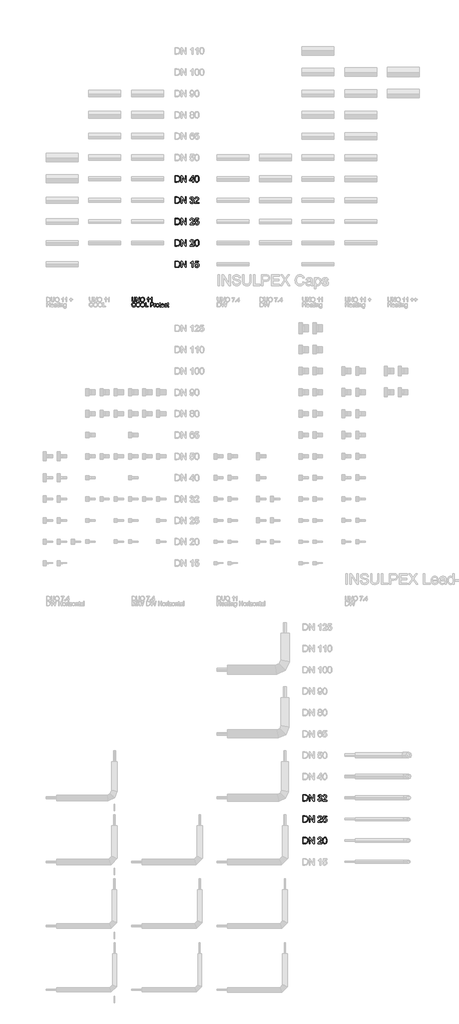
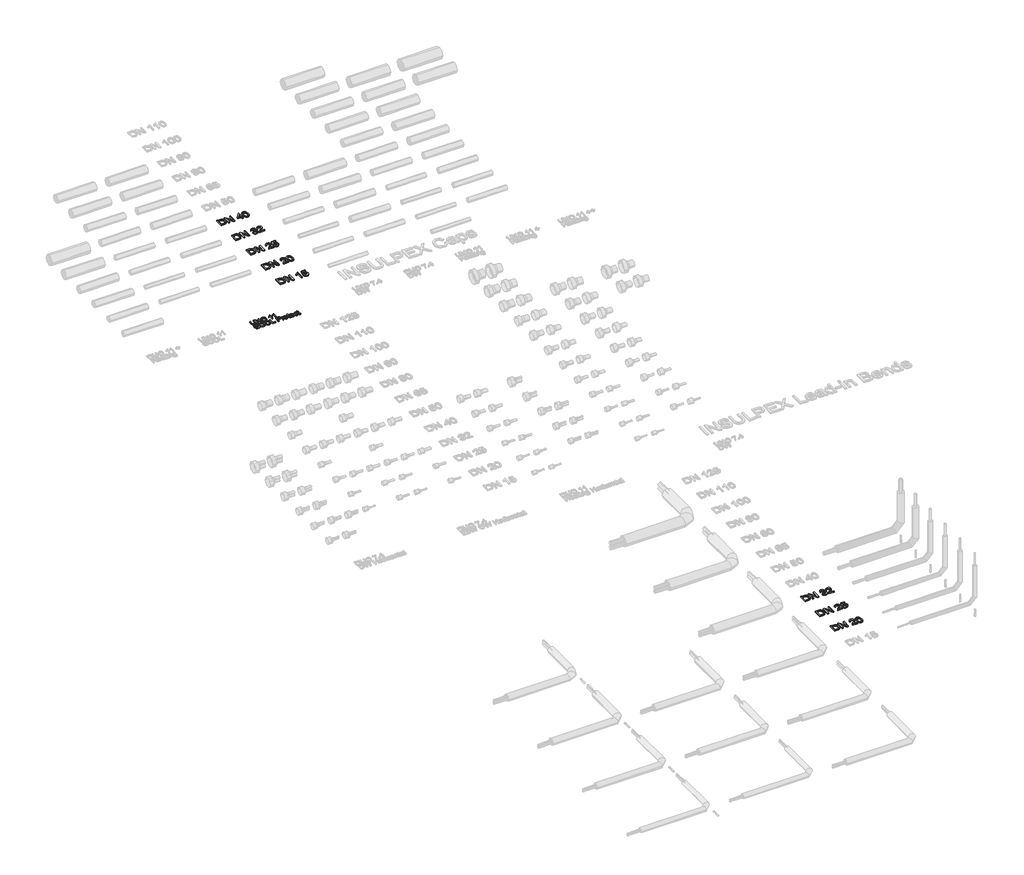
# One storey, part 18 of 44: 9 proxies.
"""IFC4 building model written with IfcOpenShell, lengths in millimetres."""

from ifc_helpers import new_model, si_unit, origin, origin_with_axes, place, context, project, spatial, polyline, outline, extrude, element, save

model = new_model("IFC4")

# Units and contexts
model_context = context("Model", 3, world=origin())
ifc_project = project(units=[si_unit("LENGTHUNIT", "METRE", prefix="MILLI")], contexts=[model_context])

# Site, building, storey
site = spatial("IfcSite", under=ifc_project)
building = spatial("IfcBuilding", under=site)
storey = spatial("IfcBuildingStorey", under=building, Name="REHAU Starting view", Elevation=0.0)

# Proxies
placement = place(None, origin())
element("IfcBuildingElementProxy", 1, Name="100", ObjectType="100", at=placement, inside=storey, context=model_context, shape_type="SweptSolid", body=[
    extrude(outline(polyline([(14076.9118625, 13222.431128), (14089.4689012, 13222.431128), (14089.4689012, 13164.477451), (14086.0598614, 13140.4547567), (14073.7726028, 13125.9847316), (14063.5086951, 13121.8000739), (14050.4734097, 13120.405188), (14027.529836, 13125.2612303), (14019.8901532, 13131.2055902), (14014.8011189, 13139.3265853), (14010.9874089, 13164.477451), (14010.9874089, 13222.431128), (14023.5444477, 13222.431128), (14023.5444477, 13164.9189094), (14026.0215198, 13145.7767829), (14034.5318566, 13136.2976902), (14049.2961874, 13132.9622268), (14062.067824, 13134.6115644), (14070.5597667, 13139.5595772), (14075.3238385, 13149.1980855), (14076.9118625, 13164.9189094), (14076.9118625, 13222.431128)])), origin_with_axes(), (0.0, 0.0, 1.0), 20.0),
    extrude(outline(polyline([(14111.4437191, 13121.9748178), (14111.4437191, 13222.431128), (14124.8836746, 13222.431128), (14177.3681726, 13142.8459897), (14177.3681726, 13222.431128), (14189.9252114, 13222.431128), (14189.9252114, 13121.9748178), (14176.4852558, 13121.9748178), (14124.0007578, 13201.5844816), (14124.0007578, 13121.9748178), (14111.4437191, 13121.9748178)])), origin_with_axes(), (0.0, 0.0, 1.0), 20.0),
    extrude(outline(polyline([(14207.1911397, 13170.8785977), (14210.5388658, 13193.0925389), (14220.5820443, 13209.8986147), (14235.9165921, 13220.4752221), (14255.1384264, 13224.0007578), (14268.3147332, 13222.3452889), (14280.1298766, 13217.3788819), (14289.9400631, 13209.4510249), (14297.1014993, 13198.9112058), (14301.479295, 13186.2683279), (14302.9385603, 13172.0312947), (14301.402653, 13157.6041891), (14296.794931, 13144.7835015), (14289.369846, 13134.2252883), (14279.3818499, 13126.5856055), (14267.667874, 13121.9502924), (14255.06485, 13120.405188), (14241.6862081, 13122.1127736), (14229.8036197, 13127.2355304), (14220.0179586, 13135.3105402), (14212.9300988, 13145.8748848), (14207.1911397, 13170.8785977)]), holes=[polyline([(14219.7481785, 13170.7559704), (14222.2589731, 13155.0412778), (14229.7913569, 13143.0667189), (14241.1129253, 13135.4883498), (14254.9912736, 13132.9622268), (14269.071957, 13135.5128753), (14280.4119195, 13143.1648208), (14287.889121, 13155.5072617), (14290.3815215, 13172.1293965), (14286.1140904, 13192.8534156), (14273.6428907, 13206.575414), (14255.2120028, 13211.4437191), (14241.7046022, 13209.0984714), (14230.2205526, 13202.0627282), (14222.366272, 13189.5455433), (14219.7481785, 13170.7559704)])]), origin_with_axes(), (0.0, 0.0, 1.0), 20.0),
    extrude(outline(polyline([(14401.8252406, 13121.9748178), (14389.2682018, 13121.9748178), (14389.2682018, 13200.2601064), (14377.3733507, 13191.7865578), (14364.1541243, 13185.4467247), (14364.1541243, 13197.3170505), (14382.5604868, 13209.0647488), (14393.7318367, 13222.431128), (14401.8252406, 13222.431128), (14401.8252406, 13121.9748178)])), origin_with_axes(), (0.0, 0.0, 1.0), 20.0),
    extrude(outline(polyline([(14478.7371031, 13121.9748178), (14466.1800643, 13121.9748178), (14466.1800643, 13200.2601064), (14454.2852131, 13191.7865578), (14441.0659868, 13185.4467247), (14441.0659868, 13197.3170505), (14459.4723492, 13209.0647488), (14470.6436992, 13222.431128), (14478.7371031, 13222.431128), (14478.7371031, 13121.9748178)])), origin_with_axes(), (0.0, 0.0, 1.0), 20.0),
    extrude(outline(polyline([(14081.620752, 13035.709079), (14094.1777908, 13032.4717174), (14088.3836493, 13017.8392111), (14079.2908327, 13007.1491734), (14067.3469306, 13000.610071), (14052.9995328, 12998.4303702), (14038.4344714, 13000.0797078), (14026.8676484, 13005.0277206), (14018.0016923, 13013.1027304), (14011.5392319, 13024.1330589), (14006.2785194, 13050.9884445), (14007.7653758, 13065.6362793), (14012.225945, 13078.2852886), (14019.427235, 13088.5338678), (14029.136254, 13095.9804125), (14040.6509605, 13100.5145581), (14053.2693129, 13102.02594), (14067.0372966, 13100.0700341), (14078.4201786, 13094.2023162), (14087.0623398, 13084.7845372), (14092.6081609, 13072.1784475), (14080.0511222, 13069.1863406), (14069.7504263, 13084.6251216), (14052.7788036, 13089.4689012), (14033.133905, 13084.0978241), (14022.0361315, 13069.6768499), (14018.8355582, 13051.01297), (14022.6247427, 13029.3815087), (14034.421492, 13015.5614084), (14051.748734, 13010.9874089), (14062.2303052, 13012.544776), (14070.9644369, 13017.2168774), (14077.5587216, 13024.954662), (14081.620752, 13035.709079)])), origin_with_axes(), (0.0, 0.0, 1.0), 20.0),
    extrude(outline(polyline([(14106.7348295, 13048.9037799), (14110.0825557, 13071.117721), (14120.1257342, 13087.9237968), (14135.460282, 13098.5004042), (14154.6821162, 13102.02594), (14167.858423, 13100.370471), (14179.6735664, 13095.4040641), (14189.483753, 13087.4762071), (14196.6451892, 13076.9363879), (14201.0229849, 13064.29351), (14202.4822501, 13050.0564768), (14200.9463428, 13035.6293712), (14196.3386208, 13022.8086837), (14188.9135359, 13012.2504704), (14178.9255397, 13004.6107877), (14167.2115639, 12999.9754745), (14154.6085398, 12998.4303702), (14141.2298979, 13000.1379557), (14129.3473095, 13005.2607125), (14119.5616484, 13013.3357223), (14112.4737887, 13023.900067), (14106.7348295, 13048.9037799)]), holes=[polyline([(14119.2918683, 13048.7811526), (14121.8026629, 13033.06646), (14129.3350468, 13021.0919011), (14140.6566152, 13013.513532), (14154.5349634, 13010.9874089), (14168.6156468, 13013.5380574), (14179.9556093, 13021.1900029), (14187.4328109, 13033.5324439), (14189.9252114, 13050.1545787), (14185.6577802, 13070.8785977), (14173.1865806, 13084.6005962), (14154.7556926, 13089.4689012), (14141.248292, 13087.1236535), (14129.7642424, 13080.0879103), (14121.9099618, 13067.5707255), (14119.2918683, 13048.7811526)])]), origin_with_axes(), (0.0, 0.0, 1.0), 20.0),
    extrude(outline(polyline([(14215.0392889, 13048.9037799), (14218.3870151, 13071.117721), (14228.4301935, 13087.9237968), (14243.7647414, 13098.5004042), (14262.9865756, 13102.02594), (14276.1628824, 13100.370471), (14287.9780258, 13095.4040641), (14297.7882124, 13087.4762071), (14304.9496485, 13076.9363879), (14309.3274443, 13064.29351), (14310.7867095, 13050.0564768), (14309.2508022, 13035.6293712), (14304.6430802, 13022.8086837), (14297.2179953, 13012.2504704), (14287.2299991, 13004.6107877), (14275.5160232, 12999.9754745), (14262.9129992, 12998.4303702), (14249.5343573, 13000.1379557), (14237.6517689, 13005.2607125), (14227.8661078, 13013.3357223), (14220.778248, 13023.900067), (14215.0392889, 13048.9037799)]), holes=[polyline([(14227.5963277, 13048.7811526), (14230.1071223, 13033.06646), (14237.6395062, 13021.0919011), (14248.9610746, 13013.513532), (14262.8394228, 13010.9874089), (14276.9201062, 13013.5380574), (14288.2600687, 13021.1900029), (14295.7372702, 13033.5324439), (14298.2296708, 13050.1545787), (14293.9622396, 13070.8785977), (14281.49104, 13084.6005962), (14263.060152, 13089.4689012), (14249.5527514, 13087.1236535), (14238.0687018, 13080.0879103), (14230.2144212, 13067.5707255), (14227.5963277, 13048.7811526)])]), origin_with_axes(), (0.0, 0.0, 1.0), 20.0),
    extrude(outline(polyline([(14328.0526378, 13000.0), (14328.0526378, 13100.4563101), (14340.6096766, 13100.4563101), (14340.6096766, 13012.5570388), (14390.8378317, 13012.5570388), (14390.8378317, 13000.0), (14328.0526378, 13000.0)])), origin_with_axes(), (0.0, 0.0, 1.0), 20.0),
    extrude(outline(polyline([(14444.2052464, 13000.0), (14444.2052464, 13100.4563101), (14481.4349044, 13100.4563101), (14496.4444898, 13099.499817), (14508.6459093, 13094.8031902), (14516.5553722, 13085.0911055), (14519.5474791, 13071.3936325), (14517.5271938, 13059.5539637), (14511.4663379, 13049.6885948), (14500.1325068, 13043.0299307), (14482.2932957, 13040.810376), (14456.7622852, 13040.810376), (14456.7622852, 13000.0), (14444.2052464, 13000.0)]), holes=[polyline([(14456.7622852, 13053.3674148), (14483.0290597, 13053.3674148), (14501.5212613, 13057.9782024), (14505.6231455, 13063.5270892), (14506.9904403, 13070.9521741), (14503.7653415, 13081.3509719), (14495.2917928, 13087.0408801), (14482.7347541, 13087.8992714), (14456.7622852, 13087.8992714), (14456.7622852, 13053.3674148)])]), origin_with_axes(), (0.0, 0.0, 1.0), 20.0),
    extrude(outline(polyline([(14535.2437775, 13000.0), (14535.2437775, 13073.7726028), (14546.2311864, 13073.7726028), (14546.2311864, 13062.8587702), (14554.0302847, 13072.9142114), (14561.878434, 13075.3422326), (14574.4845237, 13071.4672089), (14570.2906689, 13060.2100199), (14561.461501, 13062.7851938), (14554.3613785, 13060.3081217), (14549.83643, 13053.4409912), (14547.8008163, 13038.7747623), (14547.8008163, 13000.0), (14535.2437775, 13000.0)])), origin_with_axes(), (0.0, 0.0, 1.0), 20.0),
    extrude(outline(polyline([(14579.1934132, 13036.8863014), (14581.9096086, 13054.6733958), (14590.0581948, 13067.1752523), (14600.1258987, 13073.3004875), (14612.1801654, 13075.3422326), (14625.3718007, 13072.8559635), (14635.9085541, 13065.397156), (14642.8155386, 13053.5544214), (14645.1178667, 13037.916371), (14641.0466393, 13015.5736711), (14629.1885764, 13002.9307932), (14612.1801654, 12998.4303702), (14598.8291147, 13000.9074423), (14588.304624, 13008.3386586), (14581.4712159, 13020.4297135), (14579.1934132, 13036.8863014)]), holes=[polyline([(14591.750452, 13036.9108268), (14593.2035859, 13025.5463389), (14597.5629875, 13017.4498693), (14604.1235497, 13012.603024), (14612.1801654, 13010.9874089), (14620.1999929, 13012.6122211), (14626.7482924, 13017.4866575), (14631.1076941, 13025.690426), (14632.560828, 13037.3032343), (14631.098497, 13048.3366285), (14626.7115043, 13056.3227335), (14620.1540077, 13061.1695787), (14612.1801654, 13062.7851938), (14604.1235497, 13061.1757101), (14597.5629875, 13056.3472589), (14593.2035859, 13048.2691835), (14591.750452, 13036.9108268)])]), origin_with_axes(), (0.0, 0.0, 1.0), 20.0),
    extrude(outline(polyline([(14685.9282427, 13010.4723741), (14687.4978726, 12999.632118), (14678.104619, 12998.4303702), (14667.5831939, 13000.5150348), (14662.3347441, 13005.9842138), (14660.8141652, 13020.2335097), (14660.8141652, 13061.215564), (14651.3963861, 13061.215564), (14651.3963861, 13073.7726028), (14660.8141652, 13073.7726028), (14660.8141652, 13091.7007187), (14673.371204, 13099.082884), (14673.371204, 13073.7726028), (14685.9282427, 13073.7726028), (14685.9282427, 13061.215564), (14673.371204, 13061.215564), (14673.371204, 13020.6013917), (14674.0333916, 13014.1266686), (14676.1793699, 13011.8335375), (14680.4590637, 13010.9874089), (14685.9282427, 13010.4723741)])), origin_with_axes(), (0.0, 0.0, 1.0), 20.0),
    extrude(outline(polyline([(14750.1359136, 13021.9748178), (14762.4476977, 13020.405188), (14758.011654, 13011.1284304), (14750.9329913, 13004.1938547), (14741.3711251, 12999.8712413), (14729.485471, 12998.4303702), (14714.7517971, 13000.9166393), (14703.4149002, 13008.3754468), (14696.186019, 13020.3224146), (14693.776392, 13036.2731647), (14696.2105445, 13052.7604095), (14703.5130021, 13065.0905877), (14714.6966148, 13072.7793214), (14728.7742324, 13075.3422326), (14742.4134574, 13072.7854527), (14753.3119615, 13065.1151131), (14760.4580693, 13052.8094604), (14762.8401052, 13036.3467411), (14762.7665288, 13032.9622268), (14706.3334307, 13032.9622268), (14708.5070002, 13023.5628418), (14713.5561806, 13016.6527916), (14720.8433098, 13012.4037546), (14729.7307256, 13010.9874089), (14742.0425097, 13013.6116338), (14750.1359136, 13021.9748178)]), holes=[polyline([(14706.3334307, 13045.5192655), (14750.2830664, 13045.5192655), (14745.2553458, 13056.8990819), (14737.9344941, 13061.3136659), (14728.7251815, 13062.7851938), (14713.261875, 13058.088567), (14708.3966356, 13052.5979283), (14706.3334307, 13045.5192655)])]), origin_with_axes(), (0.0, 0.0, 1.0), 20.0),
    extrude(outline(polyline([(14822.4860393, 13026.6837074), (14835.0430781, 13025.1140775), (14831.5420678, 13013.9457933), (14824.9631115, 13005.5059672), (14815.9254771, 13000.1992694), (14805.0484328, 12998.4303702), (14791.6912507, 13000.8982452), (14781.2464677, 13008.3018704), (14774.5050301, 13020.3162832), (14772.2578843, 13036.6165213), (14776.0961198, 13057.4754304), (14787.7947672, 13070.8785977), (14804.8767545, 13075.3422326), (14815.4870844, 13073.809391), (14823.9698301, 13069.210866), (14830.0552114, 13061.7919125), (14833.4734483, 13051.7977849), (14820.9164095, 13050.2281551), (14815.0916112, 13059.6336714), (14804.9748564, 13062.7851938), (14796.8599927, 13061.2339581), (14790.4189921, 13056.5802509), (14786.2159403, 13048.5726861), (14784.814923, 13036.9598778), (14786.1852835, 13025.1907196), (14790.2963648, 13017.1555637), (14796.6208694, 13012.5294476), (14804.6314999, 13010.9874089), (14816.4650374, 13014.8379071), (14822.4860393, 13026.6837074)])), origin_with_axes(), (0.0, 0.0, 1.0), 20.0),
    extrude(outline(polyline([(14872.7141944, 13010.4723741), (14874.2838243, 12999.632118), (14864.8905707, 12998.4303702), (14854.3691456, 13000.5150348), (14849.1206958, 13005.9842138), (14847.6001169, 13020.2335097), (14847.6001169, 13061.215564), (14838.1823378, 13061.215564), (14838.1823378, 13073.7726028), (14847.6001169, 13073.7726028), (14847.6001169, 13091.7007187), (14860.1571557, 13099.082884), (14860.1571557, 13073.7726028), (14872.7141944, 13073.7726028), (14872.7141944, 13061.215564), (14860.1571557, 13061.215564), (14860.1571557, 13020.6013917), (14860.8193432, 13014.1266686), (14862.9653216, 13011.8335375), (14867.2450154, 13010.9874089), (14872.7141944, 13010.4723741)])), origin_with_axes(), (0.0, 0.0, 1.0), 20.0),
])
element("IfcBuildingElementProxy", 2, Name="150", ObjectType="150", at=placement, inside=storey, context=model_context, shape_type="SweptSolid", body=[
    extrude(outline(polyline([(15016.4811134, 13925.0), (15016.4811134, 14075.6844652), (15068.4628393, 14075.6844652), (15095.3550131, 14073.5139615), (15117.5015093, 14062.735019), (15127.9217668, 14051.2571007), (15135.343786, 14036.9832793), (15139.7859611, 14020.1894663), (15141.2666861, 14001.151573), (15137.2567724, 13970.7461261), (15126.9560765, 13948.8019651), (15113.1972899, 13935.135149), (15095.1894663, 13927.575174), (15070.9644369, 13925.0), (15016.4811134, 13925.0)]), holes=[polyline([(15035.3166715, 13943.8355582), (15068.6467803, 13943.8355582), (15092.8902038, 13946.5578849), (15106.8697196, 13954.2466186), (15118.3292437, 13972.9534181), (15122.431128, 14001.4458786), (15120.4215726, 14021.9736939), (15114.3929064, 14037.1304321), (15105.4855636, 14047.5414926), (15094.8399784, 14053.8322747), (15068.1317455, 14056.8489071), (15035.3166715, 14056.8489071), (15035.3166715, 13943.8355582)])]), origin_with_axes(), (0.0, 0.0, 1.0), 20.0),
    extrude(outline(polyline([(15167.1655786, 13925.0), (15167.1655786, 14075.6844652), (15187.3255119, 14075.6844652), (15266.0522589, 13956.3067578), (15266.0522589, 14075.6844652), (15284.8878171, 14075.6844652), (15284.8878171, 13925.0), (15264.7278837, 13925.0), (15186.0011368, 14044.4144956), (15186.0011368, 13925.0), (15167.1655786, 13925.0)])), origin_with_axes(), (0.0, 0.0, 1.0), 20.0),
    extrude(outline(polyline([(15440.2811718, 13925.0), (15421.4456137, 13925.0), (15421.4456137, 14042.4279329), (15403.6033369, 14029.7176099), (15383.7744974, 14020.2078604), (15383.7744974, 14038.0133489), (15411.3840411, 14055.6348965), (15428.141066, 14075.6844652), (15440.2811718, 14075.6844652), (15440.2811718, 13925.0)])), origin_with_axes(), (0.0, 0.0, 1.0), 20.0),
    extrude(outline(polyline([(15485.0156224, 13965.0255611), (15503.8511806, 13967.3800058), (15507.3092713, 13956.072233), (15513.3425361, 13947.9742306), (15521.9233836, 13943.1043927), (15533.0242228, 13941.4811134), (15546.525492, 13943.7389891), (15556.6422469, 13950.5126164), (15562.9606202, 13961.0202459), (15565.0667446, 13974.4801284), (15563.0939774, 13987.1536631), (15557.1756758, 13996.8473537), (15547.2658545, 14003.00018), (15533.3185284, 14005.0511222), (15516.7822327, 14001.7769724), (15506.2056254, 13993.2788983), (15487.3700672, 13995.6333431), (15503.8511806, 14073.3300205), (15576.8389684, 14073.3300205), (15576.8389684, 14054.4944623), (15519.0814952, 14054.4944623), (15511.0248795, 14012.9973732), (15524.4801635, 14021.1643535), (15538.5792409, 14023.8866803), (15556.1777959, 14020.511363), (15570.7873096, 14010.3854111), (15580.6235545, 13994.9527614), (15583.9023027, 13975.6573507), (15580.9500497, 13956.8217926), (15572.0932907, 13940.7085612), (15555.1339307, 13927.1613067), (15532.9506464, 13922.6455552), (15514.4507806, 13925.5472245), (15499.7125081, 13934.2522322), (15489.6095489, 13947.7489029), (15485.0156224, 13965.0255611)])), origin_with_axes(), (0.0, 0.0, 1.0), 20.0),
])
element("IfcBuildingElementProxy", 3, Name="150", ObjectType="150", at=placement, inside=storey, context=model_context, shape_type="SweptSolid", body=[
    extrude(outline(polyline([(15016.4811134, 14425.0), (15016.4811134, 14575.6844652), (15068.4628393, 14575.6844652), (15095.3550131, 14573.5139615), (15117.5015093, 14562.735019), (15127.9217668, 14551.2571007), (15135.343786, 14536.9832793), (15139.7859611, 14520.1894663), (15141.2666861, 14501.151573), (15137.2567724, 14470.7461261), (15126.9560765, 14448.8019651), (15113.1972899, 14435.135149), (15095.1894663, 14427.575174), (15070.9644369, 14425.0), (15016.4811134, 14425.0)]), holes=[polyline([(15035.3166715, 14443.8355582), (15068.6467803, 14443.8355582), (15092.8902038, 14446.5578849), (15106.8697196, 14454.2466186), (15118.3292437, 14472.9534181), (15122.431128, 14501.4458786), (15120.4215726, 14521.9736939), (15114.3929064, 14537.1304321), (15105.4855636, 14547.5414926), (15094.8399784, 14553.8322747), (15068.1317455, 14556.8489071), (15035.3166715, 14556.8489071), (15035.3166715, 14443.8355582)])]), origin_with_axes(), (0.0, 0.0, 1.0), 20.0),
    extrude(outline(polyline([(15167.1655786, 14425.0), (15167.1655786, 14575.6844652), (15187.3255119, 14575.6844652), (15266.0522589, 14456.3067578), (15266.0522589, 14575.6844652), (15284.8878171, 14575.6844652), (15284.8878171, 14425.0), (15264.7278837, 14425.0), (15186.0011368, 14544.4144956), (15186.0011368, 14425.0), (15167.1655786, 14425.0)])), origin_with_axes(), (0.0, 0.0, 1.0), 20.0),
    extrude(outline(polyline([(15466.1800643, 14443.8355582), (15466.1800643, 14425.0), (15367.293384, 14425.0), (15369.316735, 14437.9862344), (15380.757865, 14457.9806209), (15404.3391009, 14479.8144173), (15436.8598693, 14511.1947515), (15442.9575133, 14522.0104821), (15444.9900614, 14532.5319072), (15443.0724765, 14541.9634818), (15437.3197218, 14549.8039669), (15428.4767583, 14555.087672), (15417.2885471, 14556.8489071), (15405.5393159, 14555.1290587), (15396.4112439, 14549.9695138), (15390.5205335, 14541.7749423), (15388.4833869, 14530.9500146), (15369.6478288, 14533.3044594), (15374.214164, 14551.5238152), (15384.0871971, 14564.8319464), (15398.7518931, 14572.9713355), (15417.6932173, 14575.6844652), (15436.7724973, 14572.6678329), (15451.4096022, 14563.6179358), (15460.7216152, 14550.0982725), (15463.8256195, 14533.6723414), (15460.4778934, 14515.8116705), (15449.349463, 14497.3439944), (15422.3653187, 14471.5370724), (15400.6970691, 14453.4188841), (15392.1989951, 14443.8355582), (15466.1800643, 14443.8355582)])), origin_with_axes(), (0.0, 0.0, 1.0), 20.0),
    extrude(outline(polyline([(15485.0156224, 14499.128222), (15486.3997784, 14523.2474853), (15490.5522465, 14542.4831152), (15497.4316398, 14557.1294171), (15506.9965717, 14567.4806967), (15519.31602, 14573.6335231), (15534.4589626, 14575.6844652), (15556.4583059, 14570.8284229), (15571.6518323, 14556.830513), (15580.4810002, 14534.5368641), (15583.9023027, 14499.128222), (15582.5319423, 14475.1469145), (15578.420861, 14455.9572699), (15571.5828544, 14441.2971724), (15562.0317181, 14430.904506), (15549.6846787, 14424.7102929), (15534.4589626, 14422.6455552), (15514.8876404, 14426.2324047), (15500.0252078, 14436.992953), (15488.7680188, 14462.4779783), (15485.0156224, 14499.128222)]), holes=[polyline([(15503.8511806, 14499.1650102), (15506.0584726, 14469.536714), (15512.6803485, 14452.3888145), (15522.5395859, 14444.2080387), (15534.4589626, 14441.4811134), (15546.3783392, 14444.2172357), (15556.2375767, 14452.4256027), (15562.8594526, 14469.5826993), (15565.0667446, 14499.1650102), (15562.933029, 14528.1265203), (15556.5318823, 14545.407777), (15546.6910389, 14553.9886246), (15534.2382334, 14556.8489071), (15522.4476155, 14554.3289154), (15512.9746541, 14546.7689404), (15506.132049, 14528.4116288), (15503.8511806, 14499.1650102)])]), origin_with_axes(), (0.0, 0.0, 1.0), 20.0),
])
element("IfcBuildingElementProxy", 4, Name="150", ObjectType="150", at=placement, inside=storey, context=model_context, shape_type="SweptSolid", body=[
    extrude(outline(polyline([(15016.4811134, 14925.0), (15016.4811134, 15075.6844652), (15068.4628393, 15075.6844652), (15095.3550131, 15073.5139615), (15117.5015093, 15062.735019), (15127.9217668, 15051.2571007), (15135.343786, 15036.9832793), (15139.7859611, 15020.1894663), (15141.2666861, 15001.151573), (15137.2567724, 14970.7461261), (15126.9560765, 14948.8019651), (15113.1972899, 14935.135149), (15095.1894663, 14927.575174), (15070.9644369, 14925.0), (15016.4811134, 14925.0)]), holes=[polyline([(15035.3166715, 14943.8355582), (15068.6467803, 14943.8355582), (15092.8902038, 14946.5578849), (15106.8697196, 14954.2466186), (15118.3292437, 14972.9534181), (15122.431128, 15001.4458786), (15120.4215726, 15021.9736939), (15114.3929064, 15037.1304321), (15105.4855636, 15047.5414926), (15094.8399784, 15053.8322747), (15068.1317455, 15056.8489071), (15035.3166715, 15056.8489071), (15035.3166715, 14943.8355582)])]), origin_with_axes(), (0.0, 0.0, 1.0), 20.0),
    extrude(outline(polyline([(15167.1655786, 14925.0), (15167.1655786, 15075.6844652), (15187.3255119, 15075.6844652), (15266.0522589, 14956.3067578), (15266.0522589, 15075.6844652), (15284.8878171, 15075.6844652), (15284.8878171, 14925.0), (15264.7278837, 14925.0), (15186.0011368, 15044.4144956), (15186.0011368, 14925.0), (15167.1655786, 14925.0)])), origin_with_axes(), (0.0, 0.0, 1.0), 20.0),
    extrude(outline(polyline([(15466.1800643, 14943.8355582), (15466.1800643, 14925.0), (15367.293384, 14925.0), (15369.316735, 14937.9862344), (15380.757865, 14957.9806209), (15404.3391009, 14979.8144173), (15436.8598693, 15011.1947515), (15442.9575133, 15022.0104821), (15444.9900614, 15032.5319072), (15443.0724765, 15041.9634818), (15437.3197218, 15049.8039669), (15428.4767583, 15055.087672), (15417.2885471, 15056.8489071), (15405.5393159, 15055.1290587), (15396.4112439, 15049.9695138), (15390.5205335, 15041.7749423), (15388.4833869, 15030.9500146), (15369.6478288, 15033.3044594), (15374.214164, 15051.5238152), (15384.0871971, 15064.8319464), (15398.7518931, 15072.9713355), (15417.6932173, 15075.6844652), (15436.7724973, 15072.6678329), (15451.4096022, 15063.6179358), (15460.7216152, 15050.0982725), (15463.8256195, 15033.6723414), (15460.4778934, 15015.8116705), (15449.349463, 14997.3439944), (15422.3653187, 14971.5370724), (15400.6970691, 14953.4188841), (15392.1989951, 14943.8355582), (15466.1800643, 14943.8355582)])), origin_with_axes(), (0.0, 0.0, 1.0), 20.0),
    extrude(outline(polyline([(15485.0156224, 14965.0255611), (15503.8511806, 14967.3800058), (15507.3092713, 14956.072233), (15513.3425361, 14947.9742306), (15521.9233836, 14943.1043927), (15533.0242228, 14941.4811134), (15546.525492, 14943.7389891), (15556.6422469, 14950.5126164), (15562.9606202, 14961.0202459), (15565.0667446, 14974.4801284), (15563.0939774, 14987.1536631), (15557.1756758, 14996.8473537), (15547.2658545, 15003.00018), (15533.3185284, 15005.0511222), (15516.7822327, 15001.7769724), (15506.2056254, 14993.2788983), (15487.3700672, 14995.6333431), (15503.8511806, 15073.3300205), (15576.8389684, 15073.3300205), (15576.8389684, 15054.4944623), (15519.0814952, 15054.4944623), (15511.0248795, 15012.9973732), (15524.4801635, 15021.1643535), (15538.5792409, 15023.8866803), (15556.1777959, 15020.511363), (15570.7873096, 15010.3854111), (15580.6235545, 14994.9527614), (15583.9023027, 14975.6573507), (15580.9500497, 14956.8217926), (15572.0932907, 14940.7085612), (15555.1339307, 14927.1613067), (15532.9506464, 14922.6455552), (15514.4507806, 14925.5472245), (15499.7125081, 14934.2522322), (15489.6095489, 14947.7489029), (15485.0156224, 14965.0255611)])), origin_with_axes(), (0.0, 0.0, 1.0), 20.0),
])
element("IfcBuildingElementProxy", 5, Name="150", ObjectType="150", at=placement, inside=storey, context=model_context, shape_type="SweptSolid", body=[
    extrude(outline(polyline([(15016.4811134, 15425.0), (15016.4811134, 15575.6844652), (15068.4628393, 15575.6844652), (15095.3550131, 15573.5139615), (15117.5015093, 15562.735019), (15127.9217668, 15551.2571007), (15135.343786, 15536.9832793), (15139.7859611, 15520.1894663), (15141.2666861, 15501.151573), (15137.2567724, 15470.7461261), (15126.9560765, 15448.8019651), (15113.1972899, 15435.135149), (15095.1894663, 15427.575174), (15070.9644369, 15425.0), (15016.4811134, 15425.0)]), holes=[polyline([(15035.3166715, 15443.8355582), (15068.6467803, 15443.8355582), (15092.8902038, 15446.5578849), (15106.8697196, 15454.2466186), (15118.3292437, 15472.9534181), (15122.431128, 15501.4458786), (15120.4215726, 15521.9736939), (15114.3929064, 15537.1304321), (15105.4855636, 15547.5414926), (15094.8399784, 15553.8322747), (15068.1317455, 15556.8489071), (15035.3166715, 15556.8489071), (15035.3166715, 15443.8355582)])]), origin_with_axes(), (0.0, 0.0, 1.0), 20.0),
    extrude(outline(polyline([(15167.1655786, 15425.0), (15167.1655786, 15575.6844652), (15187.3255119, 15575.6844652), (15266.0522589, 15456.3067578), (15266.0522589, 15575.6844652), (15284.8878171, 15575.6844652), (15284.8878171, 15425.0), (15264.7278837, 15425.0), (15186.0011368, 15544.4144956), (15186.0011368, 15425.0), (15167.1655786, 15425.0)])), origin_with_axes(), (0.0, 0.0, 1.0), 20.0),
    extrude(outline(polyline([(15369.6478288, 15465.0255611), (15388.4833869, 15467.3800058), (15392.7002343, 15455.5434026), (15398.8760533, 15447.5511663), (15407.3143465, 15442.9986266), (15418.3186167, 15441.4811134), (15431.2312747, 15443.5688437), (15441.2008768, 15449.8320347), (15447.5744324, 15459.1762374), (15449.6989509, 15470.5070028), (15447.5928265, 15481.2629526), (15441.2744532, 15489.9863544), (15431.7095213, 15495.7667003), (15419.8637211, 15497.6934822), (15406.6567575, 15495.6333431), (15408.7536848, 15514.4689012), (15411.7703172, 15514.248172), (15433.1442611, 15519.6560374), (15440.2627777, 15526.5170366), (15442.6356166, 15536.2843035), (15440.9157683, 15544.4190942), (15435.7562233, 15551.0179774), (15427.8835486, 15555.3911747), (15418.0243111, 15556.8489071), (15408.1466795, 15555.3773791), (15400.0716698, 15550.9627951), (15394.1763608, 15543.6051552), (15390.8378317, 15533.3044594), (15372.0022735, 15535.6589041), (15377.5480946, 15552.5722789), (15387.4165291, 15565.1998284), (15400.9177983, 15573.063306), (15417.3621235, 15575.6844652), (15440.0788367, 15570.5157232), (15455.9713389, 15556.3890546), (15461.4711747, 15537.3879495), (15456.2472504, 15520.0239194), (15440.7962066, 15507.5527197), (15452.5868246, 15502.7886479), (15461.324022, 15494.6768499), (15466.7318873, 15483.6587841), (15468.5345091, 15470.175909), (15464.9292655, 15451.8185974), (15454.1135348, 15436.4779182), (15437.7887713, 15426.103646), (15417.6564291, 15422.6455552), (15399.4462704, 15425.5978082), (15384.620626, 15434.4545673), (15374.310733, 15448.0018217), (15369.6478288, 15465.0255611)])), origin_with_axes(), (0.0, 0.0, 1.0), 20.0),
    extrude(outline(polyline([(15581.547858, 15443.8355582), (15581.547858, 15425.0), (15482.6611777, 15425.0), (15484.6845286, 15437.9862344), (15496.1256587, 15457.9806209), (15519.7068946, 15479.8144173), (15552.227663, 15511.1947515), (15558.325307, 15522.0104821), (15560.3578551, 15532.5319072), (15558.4402702, 15541.9634818), (15552.6875155, 15549.8039669), (15543.844552, 15555.087672), (15532.6563408, 15556.8489071), (15520.9071096, 15555.1290587), (15511.7790376, 15549.9695138), (15505.8883271, 15541.7749423), (15503.8511806, 15530.9500146), (15485.0156224, 15533.3044594), (15489.5819577, 15551.5238152), (15499.4549908, 15564.8319464), (15514.1196868, 15572.9713355), (15533.061011, 15575.6844652), (15552.140291, 15572.6678329), (15566.7773959, 15563.6179358), (15576.0894089, 15550.0982725), (15579.1934132, 15533.6723414), (15575.8456871, 15515.8116705), (15564.7172567, 15497.3439944), (15537.7331123, 15471.5370724), (15516.0648628, 15453.4188841), (15507.5667887, 15443.8355582), (15581.547858, 15443.8355582)])), origin_with_axes(), (0.0, 0.0, 1.0), 20.0),
])
element("IfcBuildingElementProxy", 6, Name="150", ObjectType="150", at=placement, inside=storey, context=model_context, shape_type="SweptSolid", body=[
    extrude(outline(polyline([(15016.4811134, 15925.0), (15016.4811134, 16075.6844652), (15068.4628393, 16075.6844652), (15095.3550131, 16073.5139615), (15117.5015093, 16062.735019), (15127.9217668, 16051.2571007), (15135.343786, 16036.9832793), (15139.7859611, 16020.1894663), (15141.2666861, 16001.151573), (15137.2567724, 15970.7461261), (15126.9560765, 15948.8019651), (15113.1972899, 15935.135149), (15095.1894663, 15927.575174), (15070.9644369, 15925.0), (15016.4811134, 15925.0)]), holes=[polyline([(15035.3166715, 15943.8355582), (15068.6467803, 15943.8355582), (15092.8902038, 15946.5578849), (15106.8697196, 15954.2466186), (15118.3292437, 15972.9534181), (15122.431128, 16001.4458786), (15120.4215726, 16021.9736939), (15114.3929064, 16037.1304321), (15105.4855636, 16047.5414926), (15094.8399784, 16053.8322747), (15068.1317455, 16056.8489071), (15035.3166715, 16056.8489071), (15035.3166715, 15943.8355582)])]), origin_with_axes(), (0.0, 0.0, 1.0), 20.0),
    extrude(outline(polyline([(15167.1655786, 15925.0), (15167.1655786, 16075.6844652), (15187.3255119, 16075.6844652), (15266.0522589, 15956.3067578), (15266.0522589, 16075.6844652), (15284.8878171, 16075.6844652), (15284.8878171, 15925.0), (15264.7278837, 15925.0), (15186.0011368, 16044.4144956), (15186.0011368, 15925.0), (15167.1655786, 15925.0)])), origin_with_axes(), (0.0, 0.0, 1.0), 20.0),
    extrude(outline(polyline([(15430.8633928, 15925.0), (15430.8633928, 15960.3166715), (15362.5844944, 15960.3166715), (15362.5844944, 15979.1522297), (15435.5722823, 16073.3300205), (15449.6989509, 16073.3300205), (15449.6989509, 15979.1522297), (15468.5345091, 15979.1522297), (15468.5345091, 15960.3166715), (15449.6989509, 15960.3166715), (15449.6989509, 15925.0), (15430.8633928, 15925.0)]), holes=[polyline([(15430.8633928, 15979.1522297), (15430.8633928, 16037.3511613), (15385.7610601, 15979.1522297), (15430.8633928, 15979.1522297)])]), origin_with_axes(), (0.0, 0.0, 1.0), 20.0),
    extrude(outline(polyline([(15485.0156224, 15999.128222), (15486.3997784, 16023.2474853), (15490.5522465, 16042.4831152), (15497.4316398, 16057.1294171), (15506.9965717, 16067.4806967), (15519.31602, 16073.6335231), (15534.4589626, 16075.6844652), (15556.4583059, 16070.8284229), (15571.6518323, 16056.830513), (15580.4810002, 16034.5368641), (15583.9023027, 15999.128222), (15582.5319423, 15975.1469145), (15578.420861, 15955.9572699), (15571.5828544, 15941.2971724), (15562.0317181, 15930.904506), (15549.6846787, 15924.7102929), (15534.4589626, 15922.6455552), (15514.8876404, 15926.2324047), (15500.0252078, 15936.992953), (15488.7680188, 15962.4779783), (15485.0156224, 15999.128222)]), holes=[polyline([(15503.8511806, 15999.1650102), (15506.0584726, 15969.536714), (15512.6803485, 15952.3888145), (15522.5395859, 15944.2080387), (15534.4589626, 15941.4811134), (15546.3783392, 15944.2172357), (15556.2375767, 15952.4256027), (15562.8594526, 15969.5826993), (15565.0667446, 15999.1650102), (15562.933029, 16028.1265203), (15556.5318823, 16045.407777), (15546.6910389, 16053.9886246), (15534.2382334, 16056.8489071), (15522.4476155, 16054.3289154), (15512.9746541, 16046.7689404), (15506.132049, 16028.4116288), (15503.8511806, 15999.1650102)])]), origin_with_axes(), (0.0, 0.0, 1.0), 20.0),
])
element("IfcBuildingElementProxy", 7, Name="150", ObjectType="150", at=placement, inside=storey, context=model_context, shape_type="SweptSolid", body=[
    extrude(outline(polyline([(18016.4811134, 425.0), (18016.4811134, 575.6844652), (18068.4628393, 575.6844652), (18095.3550131, 573.5139615), (18117.5015093, 562.735019), (18127.9217668, 551.2571007), (18135.343786, 536.9832793), (18139.7859611, 520.1894663), (18141.2666861, 501.151573), (18137.2567724, 470.7461261), (18126.9560765, 448.8019651), (18113.1972899, 435.135149), (18095.1894663, 427.575174), (18070.9644369, 425.0), (18016.4811134, 425.0)]), holes=[polyline([(18035.3166715, 443.8355582), (18068.6467803, 443.8355582), (18092.8902038, 446.5578849), (18106.8697196, 454.2466186), (18118.3292437, 472.9534181), (18122.431128, 501.4458786), (18120.4215726, 521.9736939), (18114.3929064, 537.1304321), (18105.4855636, 547.5414926), (18094.8399784, 553.8322747), (18068.1317455, 556.8489071), (18035.3166715, 556.8489071), (18035.3166715, 443.8355582)])]), origin_with_axes(), (0.0, 0.0, 1.0), 20.0),
    extrude(outline(polyline([(18167.1655786, 425.0), (18167.1655786, 575.6844652), (18187.3255119, 575.6844652), (18266.0522589, 456.3067578), (18266.0522589, 575.6844652), (18284.8878171, 575.6844652), (18284.8878171, 425.0), (18264.7278837, 425.0), (18186.0011368, 544.4144956), (18186.0011368, 425.0), (18167.1655786, 425.0)])), origin_with_axes(), (0.0, 0.0, 1.0), 20.0),
    extrude(outline(polyline([(18466.1800643, 443.8355582), (18466.1800643, 425.0), (18367.293384, 425.0), (18369.316735, 437.9862344), (18380.757865, 457.9806209), (18404.3391009, 479.8144173), (18436.8598693, 511.1947515), (18442.9575133, 522.0104821), (18444.9900614, 532.5319072), (18443.0724765, 541.9634818), (18437.3197218, 549.8039669), (18428.4767583, 555.087672), (18417.2885471, 556.8489071), (18405.5393159, 555.1290587), (18396.4112439, 549.9695138), (18390.5205335, 541.7749423), (18388.4833869, 530.9500146), (18369.6478288, 533.3044594), (18374.214164, 551.5238152), (18384.0871971, 564.8319464), (18398.7518931, 572.9713355), (18417.6932173, 575.6844652), (18436.7724973, 572.6678329), (18451.4096022, 563.6179358), (18460.7216152, 550.0982725), (18463.8256195, 533.6723414), (18460.4778934, 515.8116705), (18449.349463, 497.3439944), (18422.3653187, 471.5370724), (18400.6970691, 453.4188841), (18392.1989951, 443.8355582), (18466.1800643, 443.8355582)])), origin_with_axes(), (0.0, 0.0, 1.0), 20.0),
    extrude(outline(polyline([(18485.0156224, 499.128222), (18486.3997784, 523.2474853), (18490.5522465, 542.4831152), (18497.4316398, 557.1294171), (18506.9965717, 567.4806967), (18519.31602, 573.6335231), (18534.4589626, 575.6844652), (18556.4583059, 570.8284229), (18571.6518323, 556.830513), (18580.4810002, 534.5368641), (18583.9023027, 499.128222), (18582.5319423, 475.1469145), (18578.420861, 455.9572699), (18571.5828544, 441.2971724), (18562.0317181, 430.904506), (18549.6846787, 424.7102929), (18534.4589626, 422.6455552), (18514.8876404, 426.2324047), (18500.0252078, 436.992953), (18488.7680188, 462.4779783), (18485.0156224, 499.128222)]), holes=[polyline([(18503.8511806, 499.1650102), (18506.0584726, 469.536714), (18512.6803485, 452.3888145), (18522.5395859, 444.2080387), (18534.4589626, 441.4811134), (18546.3783392, 444.2172357), (18556.2375767, 452.4256027), (18562.8594526, 469.5826993), (18565.0667446, 499.1650102), (18562.933029, 528.1265203), (18556.5318823, 545.407777), (18546.6910389, 553.9886246), (18534.2382334, 556.8489071), (18522.4476155, 554.3289154), (18512.9746541, 546.7689404), (18506.132049, 528.4116288), (18503.8511806, 499.1650102)])]), origin_with_axes(), (0.0, 0.0, 1.0), 20.0),
])
element("IfcBuildingElementProxy", 8, Name="150", ObjectType="150", at=placement, inside=storey, context=model_context, shape_type="SweptSolid", body=[
    extrude(outline(polyline([(18016.4811134, 925.0), (18016.4811134, 1075.6844652), (18068.4628393, 1075.6844652), (18095.3550131, 1073.5139615), (18117.5015093, 1062.735019), (18127.9217668, 1051.2571007), (18135.343786, 1036.9832793), (18139.7859611, 1020.1894663), (18141.2666861, 1001.151573), (18137.2567724, 970.7461261), (18126.9560765, 948.8019651), (18113.1972899, 935.135149), (18095.1894663, 927.575174), (18070.9644369, 925.0), (18016.4811134, 925.0)]), holes=[polyline([(18035.3166715, 943.8355582), (18068.6467803, 943.8355582), (18092.8902038, 946.5578849), (18106.8697196, 954.2466186), (18118.3292437, 972.9534181), (18122.431128, 1001.4458786), (18120.4215726, 1021.9736939), (18114.3929064, 1037.1304321), (18105.4855636, 1047.5414926), (18094.8399784, 1053.8322747), (18068.1317455, 1056.8489071), (18035.3166715, 1056.8489071), (18035.3166715, 943.8355582)])]), origin_with_axes(), (0.0, 0.0, 1.0), 20.0),
    extrude(outline(polyline([(18167.1655786, 925.0), (18167.1655786, 1075.6844652), (18187.3255119, 1075.6844652), (18266.0522589, 956.3067578), (18266.0522589, 1075.6844652), (18284.8878171, 1075.6844652), (18284.8878171, 925.0), (18264.7278837, 925.0), (18186.0011368, 1044.4144956), (18186.0011368, 925.0), (18167.1655786, 925.0)])), origin_with_axes(), (0.0, 0.0, 1.0), 20.0),
    extrude(outline(polyline([(18466.1800643, 943.8355582), (18466.1800643, 925.0), (18367.293384, 925.0), (18369.316735, 937.9862344), (18380.757865, 957.9806209), (18404.3391009, 979.8144173), (18436.8598693, 1011.1947515), (18442.9575133, 1022.0104821), (18444.9900614, 1032.5319072), (18443.0724765, 1041.9634818), (18437.3197218, 1049.8039669), (18428.4767583, 1055.087672), (18417.2885471, 1056.8489071), (18405.5393159, 1055.1290587), (18396.4112439, 1049.9695138), (18390.5205335, 1041.7749423), (18388.4833869, 1030.9500146), (18369.6478288, 1033.3044594), (18374.214164, 1051.5238152), (18384.0871971, 1064.8319464), (18398.7518931, 1072.9713355), (18417.6932173, 1075.6844652), (18436.7724973, 1072.6678329), (18451.4096022, 1063.6179358), (18460.7216152, 1050.0982725), (18463.8256195, 1033.6723414), (18460.4778934, 1015.8116705), (18449.349463, 997.3439944), (18422.3653187, 971.5370724), (18400.6970691, 953.4188841), (18392.1989951, 943.8355582), (18466.1800643, 943.8355582)])), origin_with_axes(), (0.0, 0.0, 1.0), 20.0),
    extrude(outline(polyline([(18485.0156224, 965.0255611), (18503.8511806, 967.3800058), (18507.3092713, 956.072233), (18513.3425361, 947.9742306), (18521.9233836, 943.1043927), (18533.0242228, 941.4811134), (18546.525492, 943.7389891), (18556.6422469, 950.5126164), (18562.9606202, 961.0202459), (18565.0667446, 974.4801284), (18563.0939774, 987.1536631), (18557.1756758, 996.8473537), (18547.2658545, 1003.00018), (18533.3185284, 1005.0511222), (18516.7822327, 1001.7769724), (18506.2056254, 993.2788983), (18487.3700672, 995.6333431), (18503.8511806, 1073.3300205), (18576.8389684, 1073.3300205), (18576.8389684, 1054.4944623), (18519.0814952, 1054.4944623), (18511.0248795, 1012.9973732), (18524.4801635, 1021.1643535), (18538.5792409, 1023.8866803), (18556.1777959, 1020.511363), (18570.7873096, 1010.3854111), (18580.6235545, 994.9527614), (18583.9023027, 975.6573507), (18580.9500497, 956.8217926), (18572.0932907, 940.7085612), (18555.1339307, 927.1613067), (18532.9506464, 922.6455552), (18514.4507806, 925.5472245), (18499.7125081, 934.2522322), (18489.6095489, 947.7489029), (18485.0156224, 965.0255611)])), origin_with_axes(), (0.0, 0.0, 1.0), 20.0),
])
element("IfcBuildingElementProxy", 9, Name="150", ObjectType="150", at=placement, inside=storey, context=model_context, shape_type="SweptSolid", body=[
    extrude(outline(polyline([(18016.4811134, 1425.0), (18016.4811134, 1575.6844652), (18068.4628393, 1575.6844652), (18095.3550131, 1573.5139615), (18117.5015093, 1562.735019), (18127.9217668, 1551.2571007), (18135.343786, 1536.9832793), (18139.7859611, 1520.1894663), (18141.2666861, 1501.151573), (18137.2567724, 1470.7461261), (18126.9560765, 1448.8019651), (18113.1972899, 1435.135149), (18095.1894663, 1427.575174), (18070.9644369, 1425.0), (18016.4811134, 1425.0)]), holes=[polyline([(18035.3166715, 1443.8355582), (18068.6467803, 1443.8355582), (18092.8902038, 1446.5578849), (18106.8697196, 1454.2466186), (18118.3292437, 1472.9534181), (18122.431128, 1501.4458786), (18120.4215726, 1521.9736939), (18114.3929064, 1537.1304321), (18105.4855636, 1547.5414926), (18094.8399784, 1553.8322747), (18068.1317455, 1556.8489071), (18035.3166715, 1556.8489071), (18035.3166715, 1443.8355582)])]), origin_with_axes(), (0.0, 0.0, 1.0), 20.0),
    extrude(outline(polyline([(18167.1655786, 1425.0), (18167.1655786, 1575.6844652), (18187.3255119, 1575.6844652), (18266.0522589, 1456.3067578), (18266.0522589, 1575.6844652), (18284.8878171, 1575.6844652), (18284.8878171, 1425.0), (18264.7278837, 1425.0), (18186.0011368, 1544.4144956), (18186.0011368, 1425.0), (18167.1655786, 1425.0)])), origin_with_axes(), (0.0, 0.0, 1.0), 20.0),
    extrude(outline(polyline([(18369.6478288, 1465.0255611), (18388.4833869, 1467.3800058), (18392.7002343, 1455.5434026), (18398.8760533, 1447.5511663), (18407.3143465, 1442.9986266), (18418.3186167, 1441.4811134), (18431.2312747, 1443.5688437), (18441.2008768, 1449.8320347), (18447.5744324, 1459.1762374), (18449.6989509, 1470.5070028), (18447.5928265, 1481.2629526), (18441.2744532, 1489.9863544), (18431.7095213, 1495.7667003), (18419.8637211, 1497.6934822), (18406.6567575, 1495.6333431), (18408.7536848, 1514.4689012), (18411.7703172, 1514.248172), (18433.1442611, 1519.6560374), (18440.2627777, 1526.5170366), (18442.6356166, 1536.2843035), (18440.9157683, 1544.4190942), (18435.7562233, 1551.0179774), (18427.8835486, 1555.3911747), (18418.0243111, 1556.8489071), (18408.1466795, 1555.3773791), (18400.0716698, 1550.9627951), (18394.1763608, 1543.6051552), (18390.8378317, 1533.3044594), (18372.0022735, 1535.6589041), (18377.5480946, 1552.5722789), (18387.4165291, 1565.1998284), (18400.9177983, 1573.063306), (18417.3621235, 1575.6844652), (18440.0788367, 1570.5157232), (18455.9713389, 1556.3890546), (18461.4711747, 1537.3879495), (18456.2472504, 1520.0239194), (18440.7962066, 1507.5527197), (18452.5868246, 1502.7886479), (18461.324022, 1494.6768499), (18466.7318873, 1483.6587841), (18468.5345091, 1470.175909), (18464.9292655, 1451.8185974), (18454.1135348, 1436.4779182), (18437.7887713, 1426.103646), (18417.6564291, 1422.6455552), (18399.4462704, 1425.5978082), (18384.620626, 1434.4545673), (18374.310733, 1448.0018217), (18369.6478288, 1465.0255611)])), origin_with_axes(), (0.0, 0.0, 1.0), 20.0),
    extrude(outline(polyline([(18581.547858, 1443.8355582), (18581.547858, 1425.0), (18482.6611777, 1425.0), (18484.6845286, 1437.9862344), (18496.1256587, 1457.9806209), (18519.7068946, 1479.8144173), (18552.227663, 1511.1947515), (18558.325307, 1522.0104821), (18560.3578551, 1532.5319072), (18558.4402702, 1541.9634818), (18552.6875155, 1549.8039669), (18543.844552, 1555.087672), (18532.6563408, 1556.8489071), (18520.9071096, 1555.1290587), (18511.7790376, 1549.9695138), (18505.8883271, 1541.7749423), (18503.8511806, 1530.9500146), (18485.0156224, 1533.3044594), (18489.5819577, 1551.5238152), (18499.4549908, 1564.8319464), (18514.1196868, 1572.9713355), (18533.061011, 1575.6844652), (18552.140291, 1572.6678329), (18566.7773959, 1563.6179358), (18576.0894089, 1550.0982725), (18579.1934132, 1533.6723414), (18575.8456871, 1515.8116705), (18564.7172567, 1497.3439944), (18537.7331123, 1471.5370724), (18516.0648628, 1453.4188841), (18507.5667887, 1443.8355582), (18581.547858, 1443.8355582)])), origin_with_axes(), (0.0, 0.0, 1.0), 20.0),
])

save(model, "model.ifc")
